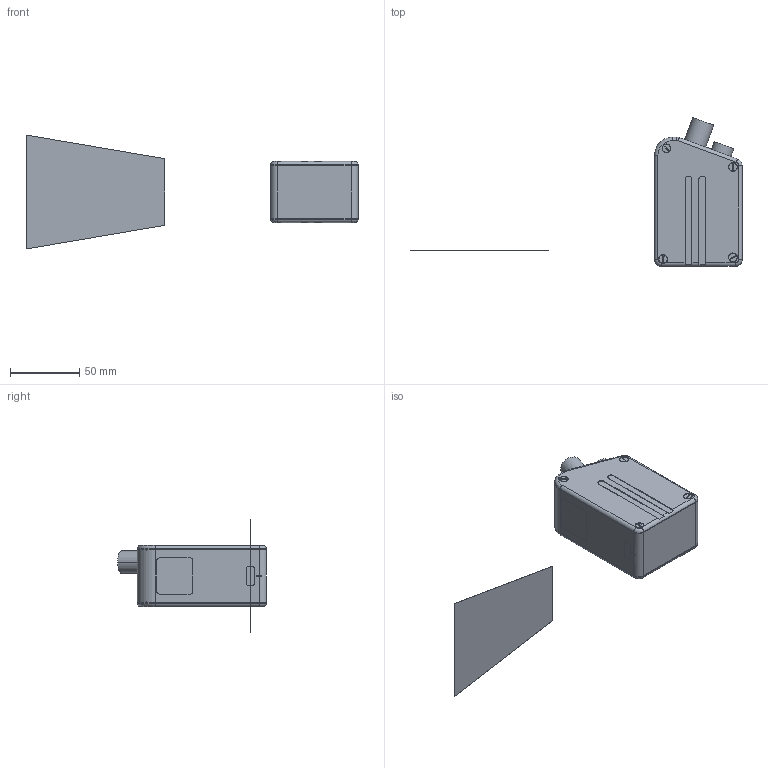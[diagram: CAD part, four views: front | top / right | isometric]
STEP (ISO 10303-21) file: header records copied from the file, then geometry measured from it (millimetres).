
FILE_DESCRIPTION (( 'STEP AP214' ), '1' );
FILE_NAME ('ÐÔ 627.75_100.000_ÑÁ ñêàíåð äëÿ ñàéòà.STEP', '2019-07-02T07:48:21', ( 'test' ), ( 'Ref' ), 'SwSTEP 2.0', 'SolidWorks 2015', '' );
FILE_SCHEMA (( 'AUTOMOTIVE_DESIGN' ));
Length unit declared in the file: millimetre
Products named in the file (13): 栺樏鋋 14-6-2; Ðåçüáîâàÿ âòóëêà Ì6-6; Âèíò_Ì3x10 â ïîòàé; Êîðïóñ 627 - 75-50 ñ ïàçîì ïîñëåäíåå; Âèíò_Ì3x8 â ïîòàé; 砐錼 睯儰擯闃蠂 100; RF627_80_017(1) ýëåêòðîíèêà; Êðûøêà 627 â5 çåðêàëüíàÿ ïîñëåäíÿÿ; Êðûøêà 627 - â5 êðûøêà áîêîâàÿ ïîñëåäíÿÿ 1; Âèíò_Ì2õ4; 性 625.75_ 袜觌彘赅_觏铒觇; ÐÔ 627.75_100.000_ÑÁ ñêàíåð äëÿ ñàéòà; 栺樏鋋 26-26-2 擤
Assembly tree (24 placements, depth 2):
  ÐÔ 627.75_100.000_ÑÁ ñêàíåð äëÿ ñàéòà
    Êîðïóñ 627 - 75-50 ñ ïàçîì ïîñëåäíåå
    Êðûøêà 627 - â5 êðûøêà áîêîâàÿ ïîñëåäíÿÿ 1
    Êðûøêà 627 â5 çåðêàëüíàÿ ïîñëåäíÿÿ
    Ðåçüáîâàÿ âòóëêà Ì6-6  x4
    性 625.75_ 袜觌彘赅_觏铒觇
    Âèíò_Ì2õ4  x4
    Âèíò_Ì3x10 â ïîòàé  x6
    栺樏鋋 14-6-2
    栺樏鋋 26-26-2 擤
    Âèíò_Ì3x8 â ïîòàé  x2
    RF627_80_017(1) ýëåêòðîíèêà
    砐錼 睯儰擯闃蠂 100
Bounding box: 239 x 107.19 x 82 mm (x, y, z)
Volume: 70536.5 mm3; surface area: 73849.4 mm2
Topology: 25 solids, 30 shells, 1106 faces, 2927 edges, 1900 vertices
Faces by surface type: plane 580, cylinder 300, cone 112, bspline 84, torus 30
Entity records: 33943 total; most frequent: CARTESIAN_POINT 9692, ORIENTED_EDGE 4758, DIRECTION 4505, EDGE_CURVE 2401, VERTEX_POINT 1576, VECTOR 1571, LINE 1571, AXIS2_PLACEMENT_3D 1467
